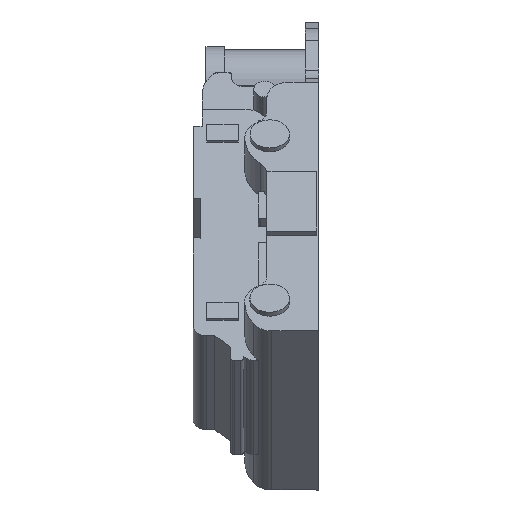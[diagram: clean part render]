
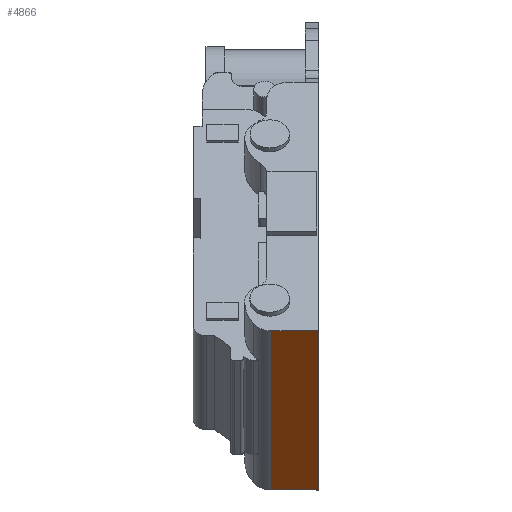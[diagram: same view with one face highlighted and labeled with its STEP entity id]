
A CAD part, left-side view. The second image highlights one B-rep face of the part: STEP entity #4866.
In plain terms, the highlighted planar face has unit normal (-0.702, 0, -0.712).
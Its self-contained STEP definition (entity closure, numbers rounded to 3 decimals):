
#77 = DIRECTION ( 'NONE',  ( 0.702, 0., 0.712 ) ) ;
#105 = CARTESIAN_POINT ( 'NONE',  ( -19.541, -4.8, -5.156 ) ) ;
#244 = VECTOR ( 'NONE', #2648, 1000. ) ;
#467 = ORIENTED_EDGE ( 'NONE', *, *, #1412, .T. ) ;
#484 = DIRECTION ( 'NONE',  ( 0., 1., 0. ) ) ;
#581 = EDGE_LOOP ( 'NONE', ( #467, #2405, #1207, #2298 ) ) ;
#897 = CARTESIAN_POINT ( 'NONE',  ( -17.192, -3.6, -7.474 ) ) ;
#1205 = LINE ( 'NONE', #5299, #2320 ) ;
#1207 = ORIENTED_EDGE ( 'NONE', *, *, #3967, .F. ) ;
#1295 = CARTESIAN_POINT ( 'NONE',  ( -11.854, -4.8, -12.742 ) ) ;
#1330 = CARTESIAN_POINT ( 'NONE',  ( -4.878, -4.8, -19.625 ) ) ;
#1412 = EDGE_CURVE ( 'NONE', #1634, #1710, #3789, .T. ) ;
#1634 = VERTEX_POINT ( 'NONE', #5323 ) ;
#1699 = CARTESIAN_POINT ( 'NONE',  ( -4.878, -0.542, -19.625 ) ) ;
#1710 = VERTEX_POINT ( 'NONE', #1699 ) ;
#1775 = PLANE ( 'NONE',  #4810 ) ;
#1795 = DIRECTION ( 'NONE',  ( 0., 1., 0. ) ) ;
#1820 = CARTESIAN_POINT ( 'NONE',  ( -19.541, -1.6, -5.156 ) ) ;
#1842 = DIRECTION ( 'NONE',  ( 0.712, 0., -0.702 ) ) ;
#1987 = EDGE_CURVE ( 'NONE', #1710, #4385, #1205, .T. ) ;
#2298 = ORIENTED_EDGE ( 'NONE', *, *, #4323, .T. ) ;
#2320 = VECTOR ( 'NONE', #3228, 1000. ) ;
#2405 = ORIENTED_EDGE ( 'NONE', *, *, #1987, .T. ) ;
#2648 = DIRECTION ( 'NONE',  ( 0.712, 0., -0.702 ) ) ;
#2688 = VERTEX_POINT ( 'NONE', #105 ) ;
#3228 = DIRECTION ( 'NONE',  ( 0., -1., 0. ) ) ;
#3629 = VECTOR ( 'NONE', #1842, 1000. ) ;
#3789 = LINE ( 'NONE', #4397, #3629 ) ;
#3899 = LINE ( 'NONE', #1820, #4928 ) ;
#3967 = EDGE_CURVE ( 'NONE', #2688, #4385, #5010, .T. ) ;
#4323 = EDGE_CURVE ( 'NONE', #2688, #1634, #3899, .T. ) ;
#4385 = VERTEX_POINT ( 'NONE', #1330 ) ;
#4397 = CARTESIAN_POINT ( 'NONE',  ( -18.686, -0.542, -5.998 ) ) ;
#4610 = FACE_OUTER_BOUND ( 'NONE', #581, .T. ) ;
#4810 = AXIS2_PLACEMENT_3D ( 'NONE', #897, #77, #484 ) ;
#4866 = ADVANCED_FACE ( 'NONE', ( #4610 ), #1775, .F. ) ;
#4928 = VECTOR ( 'NONE', #1795, 1000. ) ;
#5010 = LINE ( 'NONE', #1295, #244 ) ;
#5299 = CARTESIAN_POINT ( 'NONE',  ( -4.878, 0.407, -19.625 ) ) ;
#5323 = CARTESIAN_POINT ( 'NONE',  ( -19.541, -0.542, -5.156 ) ) ;
